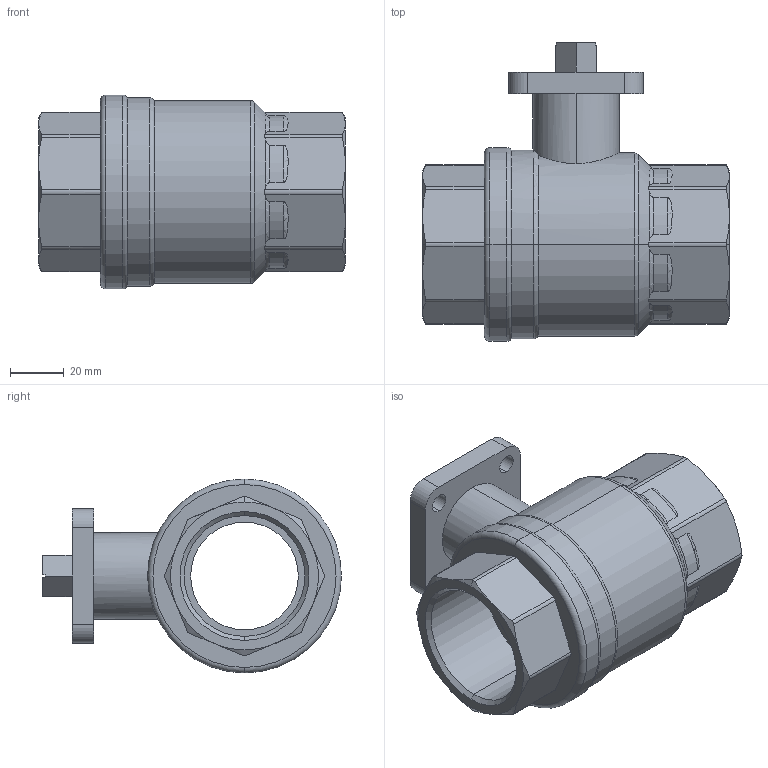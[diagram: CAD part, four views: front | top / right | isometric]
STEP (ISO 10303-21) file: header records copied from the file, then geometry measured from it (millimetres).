
FILE_DESCRIPTION (( 'STEP AP214' ), '1' );
FILE_NAME ('Ballvalve A25-DN40 G1 1_2.step', '2010-09-23T08:32:44', ( '' ), ( '' ), 'SwSTEP 2.0', 'SolidWorks 2010', '' );
FILE_SCHEMA (( 'AUTOMOTIVE_DESIGN' ));
Length unit declared in the file: millimetre
Products named in the file (1): Ballvalve A25-DN40 G1 1_2
Bounding box: 114 x 111 x 72 mm (x, y, z)
Volume: 231139 mm3; surface area: 50691.9 mm2
Topology: 1 solids, 1 shells, 140 faces, 361 edges, 229 vertices
Faces by surface type: cylinder 54, plane 37, torus 25, cone 24
Entity records: 5192 total; most frequent: CARTESIAN_POINT 1749, ORIENTED_EDGE 722, DIRECTION 658, EDGE_CURVE 361, AXIS2_PLACEMENT_3D 264, VERTEX_POINT 229, EDGE_LOOP 156, ADVANCED_FACE 140
